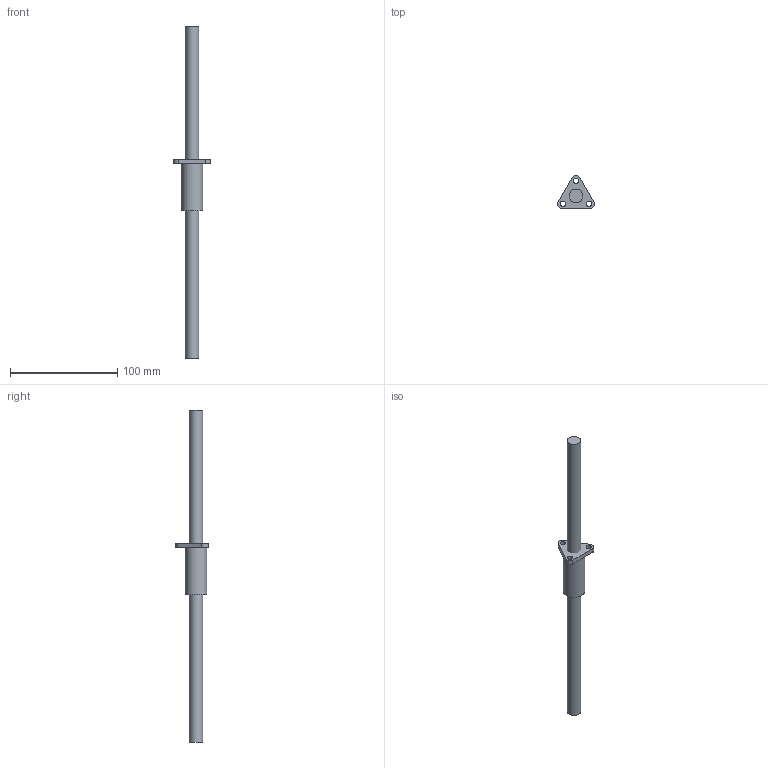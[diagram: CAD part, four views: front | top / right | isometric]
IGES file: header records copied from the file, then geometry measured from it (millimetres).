
Global section: file name: No Iges File Name specified; native system: AutoDesk Inventor R5.0; preprocessor: AutoDesk Inventor Iges Exporter R5.0; author: No Author specified; organization: No Organization specified; date: 20070112.195218; units: inch
Bounding box: 34.14 x 30.64 x 310 mm (x, y, z)
Surface area: 18670.8 mm2 (no closed solid volume)
Topology: 0 solids, 0 shells, 18 faces, 73 edges, 66 vertices
Faces by surface type: plane 8, revolution 6, bspline 4
